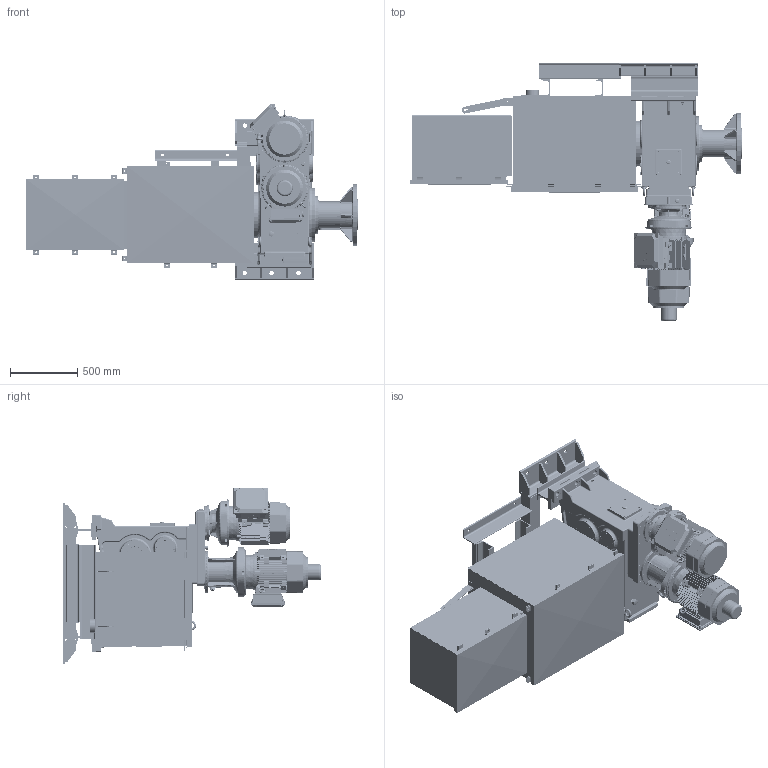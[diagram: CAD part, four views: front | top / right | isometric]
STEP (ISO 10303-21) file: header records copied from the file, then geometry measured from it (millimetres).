
FILE_DESCRIPTION(/* description */ (''),/* implementation_level */ '2;1');
FILE_NAME(/* name */ 'K:\NEMANJA\CABLE REEL\CABLE REEL DA\0700-6\07006005 DA-CRVD\STEP\75987.stp',/* time_stamp */ '2017-03-16T15:50:40+01:00',/* author */ ('zeldjo01'),/* organization */ ('Hillmar Industries Ltd.'),/* preprocessor_version */ 'ST-DEVELOPER v16.1',/* originating_system */ 'Autodesk Inventor 2016',/* authorisation */ '');
FILE_SCHEMA (('AUTOMOTIVE_DESIGN { 1 0 10303 214 3 1 1 }'));
Products named in the file (1): 75987
Bounding box: 2472.27 x 1923.09 x 1307.08 mm (x, y, z)
Volume: 207916462.2 mm3; surface area: 28178155.9 mm2
Topology: 16 solids, 19 shells, 7474 faces, 19190 edges, 12067 vertices
Faces by surface type: plane 3372, cylinder 2087, cone 609, bspline 607, torus 518, sphere 281
Full cylindrical faces by diameter (mm): 8 x5, 8.376 x38, 8.731 x1, 10 x21, 10.106 x45, 10.5 x18, 11 x30, 12 x22, 12.5 x3, 13 x18, 13.5 x16, 13.835 x31, 14 x35, 14.917 x1, 16 x3, 17 x8, 17.5 x16, 18 x5, 18.256 x1, 19 x8, 20 x5, 20.5 x1, 21.336 x1, 22 x17, 22.225 x1, 23 x1, 23.812 x2, 24.918 x2, 25 x3, 28 x10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
Entity records: 251053 total; most frequent: CARTESIAN_POINT 68815, DIRECTION 36281, ORIENTED_EDGE 35744, EDGE_CURVE 17845, AXIS2_PLACEMENT_3D 13509, VERTEX_POINT 11553, LINE 9263, VECTOR 9263
